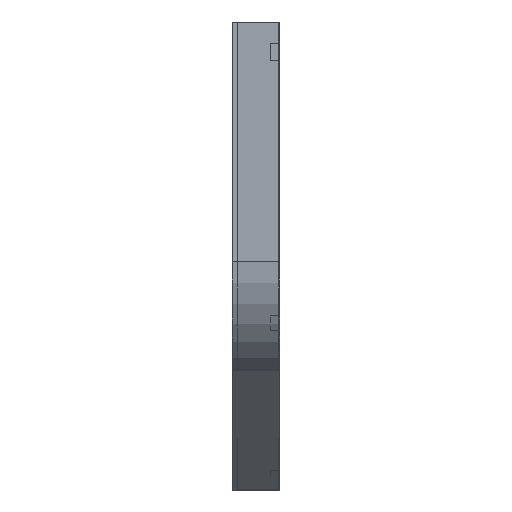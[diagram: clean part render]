
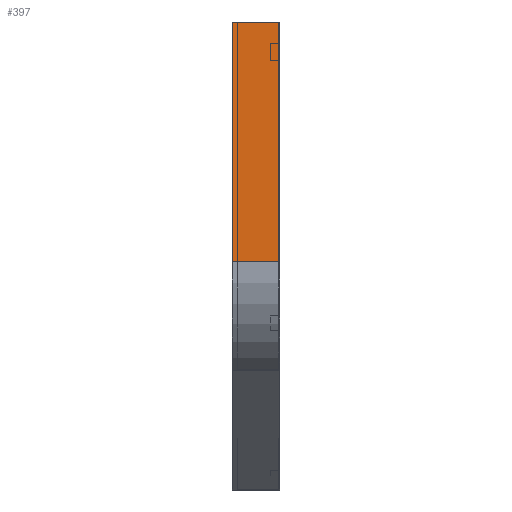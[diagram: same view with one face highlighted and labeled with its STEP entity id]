
A CAD part, left-side view. The second image highlights one B-rep face of the part: STEP entity #397.
In plain terms, the highlighted planar face has unit normal (-1, 0, 0).
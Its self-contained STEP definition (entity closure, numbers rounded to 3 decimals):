
#33 = VERTEX_POINT ( 'NONE', #421 ) ;
#38 = DIRECTION ( 'NONE',  ( 1., 0., 0. ) ) ;
#78 = DIRECTION ( 'NONE',  ( 0., 0., -1. ) ) ;
#157 = VECTOR ( 'NONE', #1010, 1000. ) ;
#158 = ORIENTED_EDGE ( 'NONE', *, *, #1177, .F. ) ;
#173 = CARTESIAN_POINT ( 'NONE',  ( 0., 112.5, 0. ) ) ;
#177 = DIRECTION ( 'NONE',  ( 0., 0., -1. ) ) ;
#298 = CARTESIAN_POINT ( 'NONE',  ( 0., 0., 0. ) ) ;
#313 = EDGE_CURVE ( 'NONE', #1611, #1616, #685, .T. ) ;
#338 = ORIENTED_EDGE ( 'NONE', *, *, #1514, .T. ) ;
#397 = ADVANCED_FACE ( 'NONE', ( #825 ), #1459, .F. ) ;
#421 = CARTESIAN_POINT ( 'NONE',  ( 0., 112.5, -569.615 ) ) ;
#513 = CARTESIAN_POINT ( 'NONE',  ( 0., 0., -569.615 ) ) ;
#637 = VECTOR ( 'NONE', #177, 1000. ) ;
#646 = EDGE_LOOP ( 'NONE', ( #158, #1306, #338, #868 ) ) ;
#685 = LINE ( 'NONE', #840, #157 ) ;
#804 = LINE ( 'NONE', #1765, #637 ) ;
#825 = FACE_OUTER_BOUND ( 'NONE', #646, .T. ) ;
#840 = CARTESIAN_POINT ( 'NONE',  ( 0., 0., 0. ) ) ;
#868 = ORIENTED_EDGE ( 'NONE', *, *, #1004, .T. ) ;
#871 = DIRECTION ( 'NONE',  ( 0., 0., -1. ) ) ;
#915 = AXIS2_PLACEMENT_3D ( 'NONE', #1465, #38, #78 ) ;
#1004 = EDGE_CURVE ( 'NONE', #33, #1692, #1104, .T. ) ;
#1010 = DIRECTION ( 'NONE',  ( 0., -1., 0. ) ) ;
#1104 = LINE ( 'NONE', #1879, #1725 ) ;
#1177 = EDGE_CURVE ( 'NONE', #1616, #1692, #1220, .T. ) ;
#1220 = LINE ( 'NONE', #2027, #1763 ) ;
#1306 = ORIENTED_EDGE ( 'NONE', *, *, #313, .F. ) ;
#1459 = PLANE ( 'NONE',  #915 ) ;
#1465 = CARTESIAN_POINT ( 'NONE',  ( 0., 0., 0. ) ) ;
#1514 = EDGE_CURVE ( 'NONE', #1611, #33, #804, .T. ) ;
#1573 = DIRECTION ( 'NONE',  ( 0., -1., 0. ) ) ;
#1611 = VERTEX_POINT ( 'NONE', #173 ) ;
#1616 = VERTEX_POINT ( 'NONE', #298 ) ;
#1692 = VERTEX_POINT ( 'NONE', #513 ) ;
#1725 = VECTOR ( 'NONE', #1573, 1000. ) ;
#1763 = VECTOR ( 'NONE', #871, 1000. ) ;
#1765 = CARTESIAN_POINT ( 'NONE',  ( 0., 112.5, 0. ) ) ;
#1879 = CARTESIAN_POINT ( 'NONE',  ( 0., 0., -569.615 ) ) ;
#2027 = CARTESIAN_POINT ( 'NONE',  ( 0., 0., 0. ) ) ;
